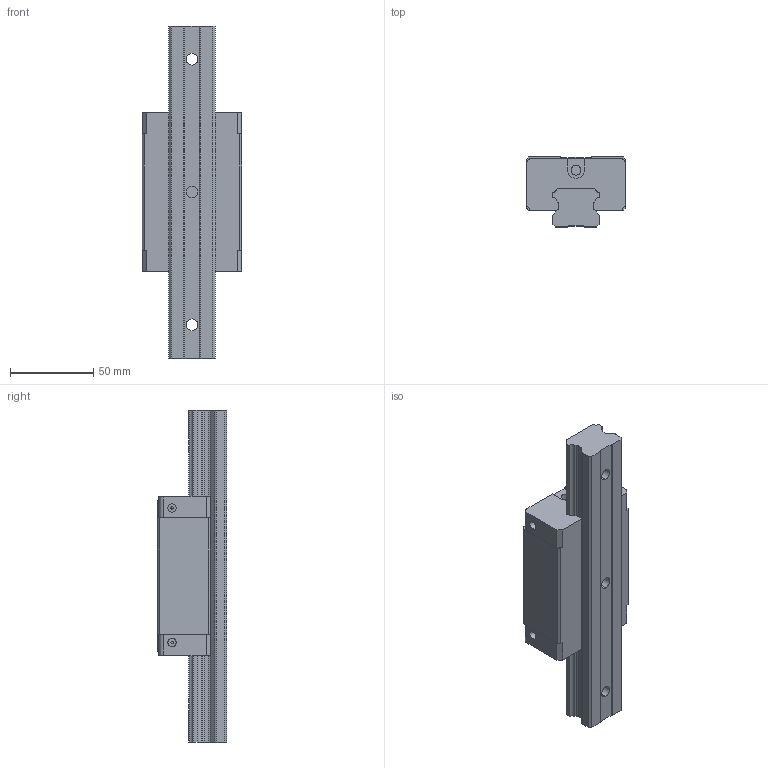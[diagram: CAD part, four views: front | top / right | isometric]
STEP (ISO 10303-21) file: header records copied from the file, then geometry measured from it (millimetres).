
FILE_DESCRIPTION((''),'2;1');
FILE_NAME('QEH30CA_ASM','2008-07-11T',('brianyu'),(''),'PRO/ENGINEER BY PARAMETRIC TECHNOLOGY CORPORATION, 2004360','PRO/ENGINEER BY PARAMETRIC TECHNOLOGY CORPORATION, 2004360','');
FILE_SCHEMA(('CONFIG_CONTROL_DESIGN'));
Length unit declared in the file: millimetre
Products named in the file (4): QER30_RAIL; QEH30CA_BLOCK; QEH30CA_ASM_ASM; QEH30CA_ASM
Assembly tree (3 placements, depth 3):
  QEH30CA_ASM
    QEH30CA_ASM_ASM
      QER30_RAIL
      QEH30CA_BLOCK
Bounding box: 60 x 42 x 200 mm (x, y, z)
Volume: 258643.7 mm3; surface area: 49255.7 mm2
Topology: 2 solids, 2 shells, 185 faces, 498 edges, 338 vertices
Faces by surface type: plane 99, cylinder 86
Entity records: 6006 total; most frequent: DIRECTION 1058, CARTESIAN_POINT 1030, ORIENTED_EDGE 996, EDGE_CURVE 498, AXIS2_PLACEMENT_3D 366, VERTEX_POINT 338, VECTOR 326, LINE 326
